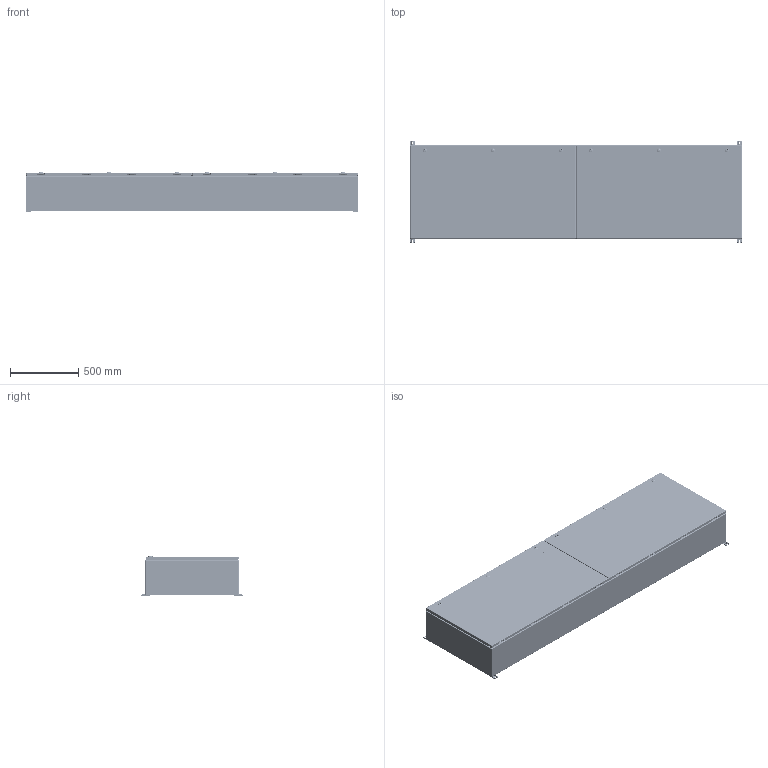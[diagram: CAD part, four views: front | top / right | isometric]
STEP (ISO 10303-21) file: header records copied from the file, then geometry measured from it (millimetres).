
FILE_DESCRIPTION(/* description */ ('1412BTCU 1600A - 3 Wires x 96" Assembly'),/* implementation_level */ '2;1');
FILE_NAME(/* name */ 'C:\Vault_Workspace\Inventor_Dwg\BoxCad\Result\1412BTCU081603DT\e-mail\3D\1412BTCU081603DT.stp',/* time_stamp */ '2022-10-21T17:12:19-04:00',/* author */ ('BoxCad'),/* organization */ (''),/* preprocessor_version */ 'ST-DEVELOPER v18.1',/* originating_system */ 'Autodesk Inventor 2020',/* authorisation */ '');
FILE_SCHEMA (('AUTOMOTIVE_DESIGN { 1 0 10303 214 3 1 1 }'));
Products named in the file (64): 1412BTCU081603DT; 1412BTCU081603DTB; 1412BTCU081603DTB-P; 1412BTCU081603DTE-P; STK-Q-16005; iLogic_STK-G-00701; STK-Q-00260; STK-Q-07220-1; STK-Q-07220-A; STK-Q-07220-B; 1412BTCU081603DTC; 1412BTCU081603DTC-P; 1412BTCU081603DTF-P; 1412BTCU081603DTG; STK-Q-16080; STK-K-09800; STK-Q-33014; STK-Q-90398; STK-Q-40095; STK-Q-63410; STK-S-00100; STK-P-02400S; STK-A-880SCQ4-SL-1; STK-A-880SCQ4-SL-2; STK-A-880SCQ4-SL-3; STK-A-880SCQ4-SL-4; STK-A-880SCQ4-SL-5; STK-Q-78141; STK-A-880SCQ4-SL-6; STK-Q-78110; STK-Q-78120; STK-Q-78145; STK-Q-03200; STK-Q-78125; STK-Q-78140; STK-Q-90390; STK-Q-78160; 1412BTCU081603DTIP1; 1412BTCU081603DTIP1-P; 1412BTCU081603DTIP2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
Assembly tree (199 placements, depth 4):
  1412BTCU081603DT
    1412BTCU081603DTB
      1412BTCU081603DTB-P
      1412BTCU081603DTE-P
      STK-Q-16080  x2
      STK-Q-16005  x10
      iLogic_STK-G-00701
      STK-Q-00260  x10
      STK-Q-07220-1  x10
        STK-Q-07220-A
        STK-Q-07220-B
      STK-S-00100
      STK-P-02400S
    1412BTCU081603DTC
      1412BTCU081603DTC-P
      1412BTCU081603DTF-P
      1412BTCU081603DTG  x2
      STK-Q-16080  x2
      STK-K-09800  x8
        STK-Q-33014
        STK-Q-90398
        STK-Q-40095
        STK-Q-63410
      STK-S-00100
      STK-P-02400S
      STK-A-880SCQ4-SL-1
        STK-Q-78110
        STK-Q-78120
        STK-Q-78145
        STK-Q-03200
        STK-Q-78125
        STK-Q-78141
        STK-Q-90390
        STK-Q-78160
      STK-A-880SCQ4-SL-2
        STK-Q-78110
        STK-Q-78120
        STK-Q-78145
        STK-Q-03200
        STK-Q-78125
        STK-Q-78141
        STK-Q-90390
        STK-Q-78160
      STK-A-880SCQ4-SL-3
        STK-Q-78110
        STK-Q-78120
        STK-Q-78145
        STK-Q-03200
        STK-Q-78125
        STK-Q-78141
        STK-Q-90390
        STK-Q-78160
      STK-A-880SCQ4-SL-4
        STK-Q-78110
        STK-Q-78120
        STK-Q-78145
        STK-Q-03200
        STK-Q-78125
        STK-Q-78141
        STK-Q-90390
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Bounding box: 2438.4 x 742.95 x 294.19 mm (x, y, z)
Volume: 19563363.4 mm3; surface area: 14742557.5 mm2
Topology: 297 solids, 297 shells, 40201 faces, 104378 edges, 64756 vertices
Faces by surface type: plane 14205, bspline 10674, cylinder 10443, torus 3289, sphere 978, cone 612
Full cylindrical faces by diameter (mm): 0.75 x14, 0.762 x14, 1 x32, 1.1 x32, 3.2 x16, 4.5 x48, 4.521 x32, 4.85 x64, 4.95 x16, 5 x10, 5.1 x104, 5.105 x36, 5.6 x8, 5.9 x246, 6.65 x22, 6.8 x10, 6.85 x80, 7.3 x8, 7.366 x8, 7.8 x492, 7.9 x10, 8 x56, 8.25 x24, 8.382 x8, 8.6 x12, 9.5 x10, 9.6 x6, 9.7 x48, 9.906 x4, 10 x6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
Entity records: 224294 total; most frequent: CARTESIAN_POINT 86175, ORIENTED_EDGE 30078, DIRECTION 25258, EDGE_CURVE 15039, VERTEX_POINT 9545, AXIS2_PLACEMENT_3D 8834, LINE 7590, VECTOR 7590
